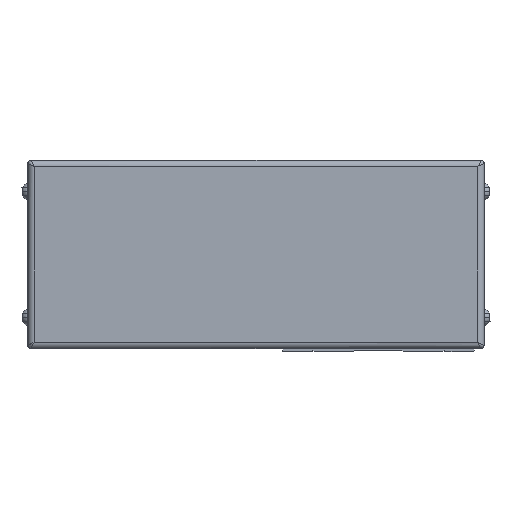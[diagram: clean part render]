
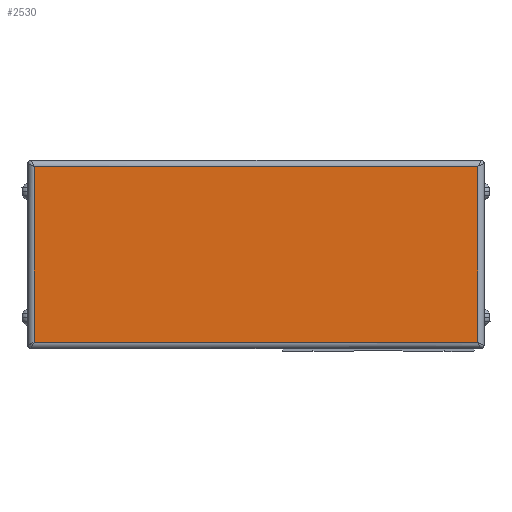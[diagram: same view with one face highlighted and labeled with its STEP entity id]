
A CAD part, left-side view. The second image highlights one B-rep face of the part: STEP entity #2530.
In plain terms, the highlighted planar face has unit normal (-1, 0, 0).
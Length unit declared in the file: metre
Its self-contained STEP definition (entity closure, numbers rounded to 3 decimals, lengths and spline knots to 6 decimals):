
#2530=ADVANCED_FACE('',(#5911),#5912,.T.);
#5911=FACE_OUTER_BOUND('',#11121,.T.);
#5912=PLANE('',#11122);
#11121=EDGE_LOOP('',(#20118,#20119,#20120,#20121));
#11122=AXIS2_PLACEMENT_3D('',#20122,#20123,#20124);
#20118=ORIENTED_EDGE('',*,*,#32365,.T.);
#20119=ORIENTED_EDGE('',*,*,#32366,.T.);
#20120=ORIENTED_EDGE('',*,*,#32367,.T.);
#20121=ORIENTED_EDGE('',*,*,#32368,.T.);
#20122=CARTESIAN_POINT('',(-0.054,0.039,-0.001));
#20123=DIRECTION('',(-1.0,0.0,0.0));
#20124=DIRECTION('',(0.0,0.,1.0));
#32365=EDGE_CURVE('',#37888,#37889,#37890,.T.);
#32366=EDGE_CURVE('',#37889,#37891,#37892,.T.);
#32367=EDGE_CURVE('',#37891,#37893,#37894,.T.);
#32368=EDGE_CURVE('',#37893,#37888,#37895,.T.);
#37888=VERTEX_POINT('',#46053);
#37889=VERTEX_POINT('',#46054);
#37890=LINE('',#46055,#46056);
#37891=VERTEX_POINT('',#46057);
#37892=LINE('',#46058,#46059);
#37893=VERTEX_POINT('',#46060);
#37894=LINE('',#46061,#46062);
#37895=LINE('',#46063,#46064);
#46053=CARTESIAN_POINT('',(-0.054,-0.0317,0.027));
#46054=CARTESIAN_POINT('',(-0.054,0.1097,0.027));
#46055=CARTESIAN_POINT('',(-0.054,0.039,0.027));
#46056=VECTOR('',#55807,1.0);
#46057=CARTESIAN_POINT('',(-0.054,0.1097,-0.029));
#46058=CARTESIAN_POINT('',(-0.054,0.1097,-0.001));
#46059=VECTOR('',#55808,1.0);
#46060=CARTESIAN_POINT('',(-0.054,-0.0317,-0.029));
#46061=CARTESIAN_POINT('',(-0.054,0.039,-0.029));
#46062=VECTOR('',#55809,1.0);
#46063=CARTESIAN_POINT('',(-0.054,-0.0317,-0.001));
#46064=VECTOR('',#55810,1.0);
#55807=DIRECTION('',(0.0,1.0,0.));
#55808=DIRECTION('',(0.0,0.,-1.0));
#55809=DIRECTION('',(0.0,-1.0,0.));
#55810=DIRECTION('',(0.0,0.,1.0));
